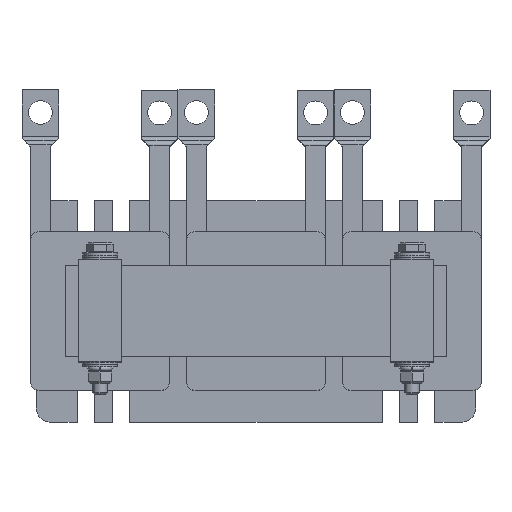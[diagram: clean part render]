
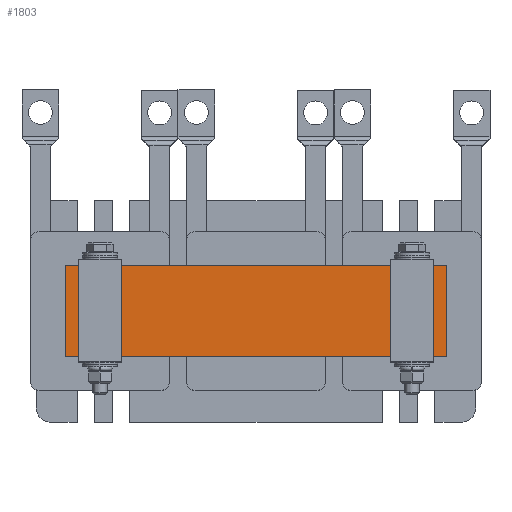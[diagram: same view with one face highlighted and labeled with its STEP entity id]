
A CAD part, top view. The second image highlights one B-rep face of the part: STEP entity #1803.
In plain terms, the highlighted planar face has unit normal (0, 0, 1).
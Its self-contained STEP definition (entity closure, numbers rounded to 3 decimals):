
#1803=ADVANCED_FACE('',(#2620),#2622,.T.);
#2620=FACE_BOUND('',#2621,.T.);
#2621=EDGE_LOOP('',(#3845,#3846,#3847,#3848));
#2622=PLANE('',#2623);
#2623=AXIS2_PLACEMENT_3D('',#2624,#2625,#2626);
#2624=CARTESIAN_POINT('',(0.,0.,20.));
#2625=DIRECTION('',(0.,0.,1.));
#2626=DIRECTION('',(-1.,0.,0.));
#3845=ORIENTED_EDGE('',*,*,#4471,.T.);
#3846=ORIENTED_EDGE('',*,*,#4465,.T.);
#3847=ORIENTED_EDGE('',*,*,#4472,.T.);
#3848=ORIENTED_EDGE('',*,*,#4459,.T.);
#4459=EDGE_CURVE('',#5058,#5056,#5059,.T.);
#4465=EDGE_CURVE('',#5070,#5068,#5071,.T.);
#4471=EDGE_CURVE('',#5056,#5070,#5079,.T.);
#4472=EDGE_CURVE('',#5068,#5058,#5080,.T.);
#5056=VERTEX_POINT('',#6322);
#5058=VERTEX_POINT('',#6326);
#5059=LINE('',#6327,#6328);
#5068=VERTEX_POINT('',#6348);
#5070=VERTEX_POINT('',#6352);
#5071=LINE('',#6353,#6354);
#5079=LINE('',#6375,#6376);
#5080=LINE('',#6378,#6379);
#6322=CARTESIAN_POINT('',(-67.,16.,20.));
#6326=CARTESIAN_POINT('',(67.,16.,20.));
#6327=CARTESIAN_POINT('',(67.,16.,20.));
#6328=VECTOR('',#6329,1.);
#6329=DIRECTION('',(-1.,0.,0.));
#6348=CARTESIAN_POINT('',(67.,-16.,20.));
#6352=CARTESIAN_POINT('',(-67.,-16.,20.));
#6353=CARTESIAN_POINT('',(-67.,-16.,20.));
#6354=VECTOR('',#6355,1.);
#6355=DIRECTION('',(1.,0.,0.));
#6375=CARTESIAN_POINT('',(-67.,16.,20.));
#6376=VECTOR('',#6377,1.);
#6377=DIRECTION('',(0.,-1.,0.));
#6378=CARTESIAN_POINT('',(67.,-16.,20.));
#6379=VECTOR('',#6380,1.);
#6380=DIRECTION('',(0.,1.,0.));
